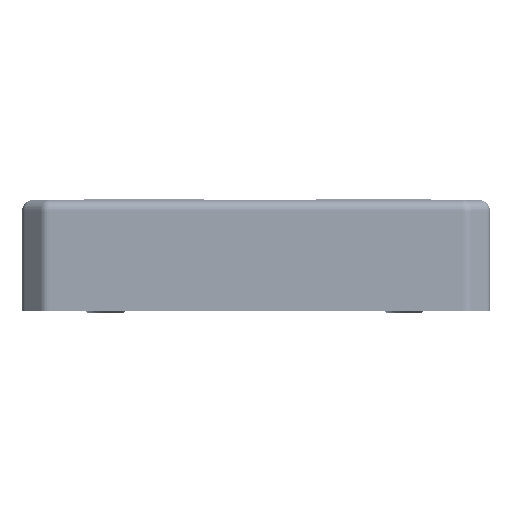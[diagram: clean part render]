
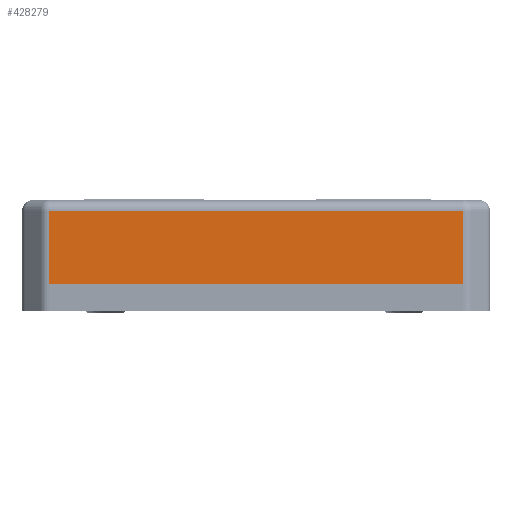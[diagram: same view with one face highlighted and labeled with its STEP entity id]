
A CAD part, left-side view. The second image highlights one B-rep face of the part: STEP entity #428279.
In plain terms, the highlighted planar face has unit normal (-1, 0, 0).
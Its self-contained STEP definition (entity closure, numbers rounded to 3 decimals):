
#24258=PLANE('',#457485);
#45692=FACE_OUTER_BOUND('',#69896,.T.);
#69896=EDGE_LOOP('',(#400783,#400784,#400785,#400786));
#113450=LINE('',#670637,#165894);
#122294=LINE('',#695467,#174738);
#122317=LINE('',#695539,#174761);
#122318=LINE('',#695541,#174762);
#165894=VECTOR('',#549274,10.);
#174738=VECTOR('',#565134,10.);
#174761=VECTOR('',#565237,10.);
#174762=VECTOR('',#565240,10.);
#216142=VERTEX_POINT('',#670634);
#216143=VERTEX_POINT('',#670636);
#221804=VERTEX_POINT('',#695462);
#221805=VERTEX_POINT('',#695466);
#272187=EDGE_CURVE('',#216143,#216142,#113450,.T.);
#281629=EDGE_CURVE('',#221804,#221805,#122294,.T.);
#281666=EDGE_CURVE('',#216143,#221804,#122317,.T.);
#281667=EDGE_CURVE('',#221805,#216142,#122318,.T.);
#400783=ORIENTED_EDGE('',*,*,#281629,.F.);
#400784=ORIENTED_EDGE('',*,*,#281666,.F.);
#400785=ORIENTED_EDGE('',*,*,#272187,.T.);
#400786=ORIENTED_EDGE('',*,*,#281667,.F.);
#428279=ADVANCED_FACE('',(#45692),#24258,.T.);
#457485=AXIS2_PLACEMENT_3D('',#695540,#565238,#565239);
#549274=DIRECTION('',(0.,-1.,0.));
#565134=DIRECTION('',(0.,-1.,0.));
#565237=DIRECTION('',(0.,0.,1.));
#565238=DIRECTION('center_axis',(-1.,0.,0.));
#565239=DIRECTION('ref_axis',(0.,-1.,0.));
#565240=DIRECTION('',(0.,0.,-1.));
#670634=CARTESIAN_POINT('',(1.533,2.512,-0.053));
#670636=CARTESIAN_POINT('',(1.533,39.684,-0.053));
#670637=CARTESIAN_POINT('',(1.533,31.598,-0.053));
#695462=CARTESIAN_POINT('',(1.533,39.684,6.447));
#695466=CARTESIAN_POINT('',(1.533,2.512,6.447));
#695467=CARTESIAN_POINT('',(1.533,31.598,6.447));
#695539=CARTESIAN_POINT('',(1.533,39.684,-1.928));
#695540=CARTESIAN_POINT('Origin',(1.533,42.098,-2.553));
#695541=CARTESIAN_POINT('',(1.533,2.512,-1.928));
